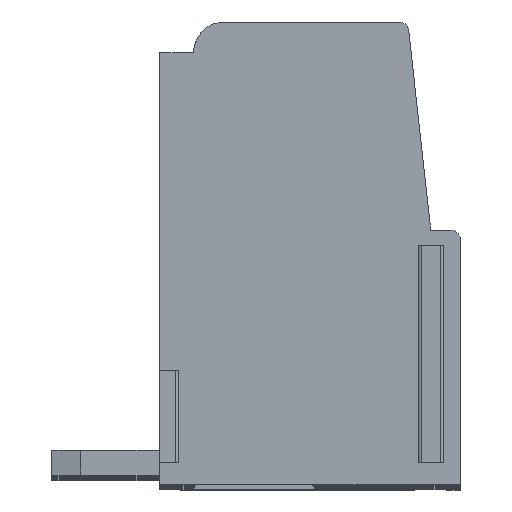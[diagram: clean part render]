
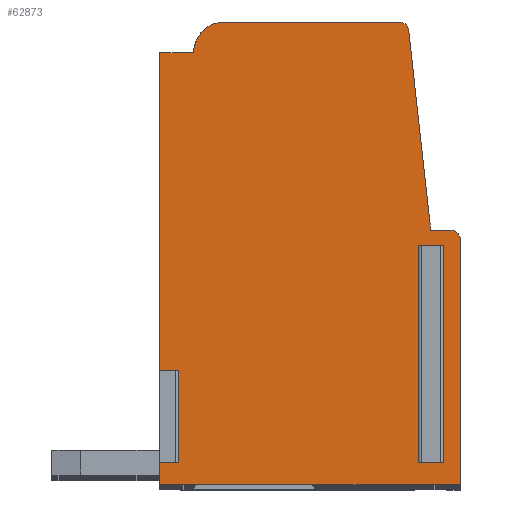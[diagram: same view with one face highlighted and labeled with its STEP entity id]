
A CAD part, top view. The second image highlights one B-rep face of the part: STEP entity #62873.
In plain terms, the highlighted planar face has unit normal (0, 0, 1).
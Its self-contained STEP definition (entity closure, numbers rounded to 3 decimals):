
#16546 = CARTESIAN_POINT ( 'NONE',  ( -8.465, -10.694, 0. ) ) ;
#16573 = CARTESIAN_POINT ( 'NONE',  ( -8.465, 2.606, 0. ) ) ;
#16574 = CARTESIAN_POINT ( 'NONE',  ( -7.365, 2.606, 0. ) ) ;
#16575 = DIRECTION ( 'NONE',  ( -1., 0., 0. ) ) ;
#16576 = VECTOR ( 'NONE', #16575, 1000. ) ;
#16577 = CARTESIAN_POINT ( 'NONE',  ( -3.59, 2.606, 0. ) ) ;
#16578 = LINE ( 'NONE', #16577, #16576 ) ;
#16589 = CARTESIAN_POINT ( 'NONE',  ( -8.465, -7.694, 0. ) ) ;
#16590 = DIRECTION ( 'NONE',  ( 1., 0., 0. ) ) ;
#16591 = VECTOR ( 'NONE', #16590, 1000. ) ;
#16592 = CARTESIAN_POINT ( 'NONE',  ( -3.59, -7.694, 0. ) ) ;
#16593 = LINE ( 'NONE', #16592, #16591 ) ;
#16594 = CARTESIAN_POINT ( 'NONE',  ( -8.057, -7.694, 0. ) ) ;
#16599 = DIRECTION ( 'NONE',  ( -1., 0., 0. ) ) ;
#16600 = VECTOR ( 'NONE', #16599, 1000. ) ;
#16601 = CARTESIAN_POINT ( 'NONE',  ( -3.59, -10.694, 0. ) ) ;
#16602 = LINE ( 'NONE', #16601, #16600 ) ;
#16608 = CARTESIAN_POINT ( 'NONE',  ( -3.59, -3.144, 0. ) ) ;
#16609 = LINE ( 'NONE', #16608, #16662 ) ;
#16638 = CARTESIAN_POINT ( 'NONE',  ( 0.985, -3.144, 0. ) ) ;
#16639 = CARTESIAN_POINT ( 'NONE',  ( 1.285, -3.444, 0. ) ) ;
#16640 = DIRECTION ( 'NONE',  ( 1., 0., 0. ) ) ;
#16641 = DIRECTION ( 'NONE',  ( 0., 0., 1. ) ) ;
#16642 = AXIS2_PLACEMENT_3D ( 'NONE', #16648, #16641, #16640 ) ;
#16643 = CIRCLE ( 'NONE', #16642, 0.3 ) ;
#16648 = CARTESIAN_POINT ( 'NONE',  ( 0.985, -3.444, 0. ) ) ;
#16655 = CARTESIAN_POINT ( 'NONE',  ( -8.465, -11.394, 0. ) ) ;
#16656 = DIRECTION ( 'NONE',  ( 1., 0., 0. ) ) ;
#16657 = VECTOR ( 'NONE', #16656, 1000. ) ;
#16658 = CARTESIAN_POINT ( 'NONE',  ( -3.59, -11.394, 0. ) ) ;
#16659 = LINE ( 'NONE', #16658, #16657 ) ;
#16660 = CARTESIAN_POINT ( 'NONE',  ( 0.33, -3.144, 0. ) ) ;
#16661 = DIRECTION ( 'NONE',  ( -1., 0., 0. ) ) ;
#16662 = VECTOR ( 'NONE', #16661, 1000. ) ;
#16663 = DIRECTION ( 'NONE',  ( -1., 0., 0. ) ) ;
#16664 = VECTOR ( 'NONE', #16663, 1000. ) ;
#16665 = CARTESIAN_POINT ( 'NONE',  ( -3.59, -10.694, 0. ) ) ;
#16666 = LINE ( 'NONE', #16665, #16664 ) ;
#16673 = CARTESIAN_POINT ( 'NONE',  ( 0.535, -3.644, 0. ) ) ;
#16684 = DIRECTION ( 'NONE',  ( 0., -1., 0. ) ) ;
#16685 = VECTOR ( 'NONE', #16684, 1000. ) ;
#16686 = CARTESIAN_POINT ( 'NONE',  ( -8.057, -3.894, 0. ) ) ;
#16687 = LINE ( 'NONE', #16686, #16685 ) ;
#16688 = CARTESIAN_POINT ( 'NONE',  ( -8.057, -10.694, 0. ) ) ;
#16693 = CARTESIAN_POINT ( 'NONE',  ( 1.285, -11.394, 0. ) ) ;
#16696 = AXIS2_PLACEMENT_3D ( 'NONE', #16762, #16761, #16760 ) ;
#16701 = CIRCLE ( 'NONE', #16696, 1. ) ;
#16726 = CARTESIAN_POINT ( 'NONE',  ( 0.535, -10.694, 0. ) ) ;
#16744 = CARTESIAN_POINT ( 'NONE',  ( 0.135, -10.694, 0. ) ) ;
#16759 = CARTESIAN_POINT ( 'NONE',  ( -6.365, 3.606, 0. ) ) ;
#16760 = DIRECTION ( 'NONE',  ( 1., 0., 0. ) ) ;
#16761 = DIRECTION ( 'NONE',  ( 0., 0., 1. ) ) ;
#16762 = CARTESIAN_POINT ( 'NONE',  ( -6.365, 2.606, 0. ) ) ;
#16776 = DIRECTION ( 'NONE',  ( 1., 0., 0. ) ) ;
#16777 = VECTOR ( 'NONE', #16776, 1000. ) ;
#16778 = CARTESIAN_POINT ( 'NONE',  ( -3.59, -3.644, 0. ) ) ;
#16779 = LINE ( 'NONE', #16778, #16777 ) ;
#16788 = CARTESIAN_POINT ( 'NONE',  ( 0.135, -3.644, 0. ) ) ;
#16810 = DIRECTION ( 'NONE',  ( 0., -1., 0. ) ) ;
#16811 = VECTOR ( 'NONE', #16810, 1000. ) ;
#16812 = CARTESIAN_POINT ( 'NONE',  ( 0.535, -3.894, 0. ) ) ;
#16813 = LINE ( 'NONE', #16812, #16811 ) ;
#16847 = DIRECTION ( 'NONE',  ( 0., 1., 0. ) ) ;
#16848 = VECTOR ( 'NONE', #16847, 1000. ) ;
#16849 = CARTESIAN_POINT ( 'NONE',  ( 0.135, -3.894, 0. ) ) ;
#16850 = LINE ( 'NONE', #16849, #16848 ) ;
#17256 = DIRECTION ( 'NONE',  ( 0., 1., 0. ) ) ;
#17257 = VECTOR ( 'NONE', #17256, 1000. ) ;
#17258 = CARTESIAN_POINT ( 'NONE',  ( 1.285, -11.394, 0. ) ) ;
#17259 = LINE ( 'NONE', #17258, #17257 ) ;
#17485 = CARTESIAN_POINT ( 'NONE',  ( -0.386, 3.339, 0. ) ) ;
#17486 = DIRECTION ( 'NONE',  ( -0.11, 0.994, 0. ) ) ;
#17487 = VECTOR ( 'NONE', #17486, 1000. ) ;
#17488 = CARTESIAN_POINT ( 'NONE',  ( 0.33, -3.144, 0. ) ) ;
#17489 = LINE ( 'NONE', #17488, #17487 ) ;
#18106 = DIRECTION ( 'NONE',  ( 0., -1., 0. ) ) ;
#18107 = VECTOR ( 'NONE', #18106, 1000. ) ;
#18108 = CARTESIAN_POINT ( 'NONE',  ( -8.465, -11.394, 0. ) ) ;
#18109 = LINE ( 'NONE', #18108, #18107 ) ;
#18169 = DIRECTION ( 'NONE',  ( 0., -1., 0. ) ) ;
#18170 = VECTOR ( 'NONE', #18169, 1000. ) ;
#18171 = CARTESIAN_POINT ( 'NONE',  ( -8.465, -11.394, 0. ) ) ;
#18172 = LINE ( 'NONE', #18171, #18170 ) ;
#19397 = FACE_BOUND ( 'NONE', #62874, .T. ) ;
#19398 = PLANE ( 'NONE',  #19460 ) ;
#19399 = FACE_OUTER_BOUND ( 'NONE', #62879, .T. ) ;
#19453 = CARTESIAN_POINT ( 'NONE',  ( -0.684, 3.606, 0. ) ) ;
#19454 = DIRECTION ( 'NONE',  ( 1., 0., 0. ) ) ;
#19455 = VECTOR ( 'NONE', #19454, 1000. ) ;
#19456 = CARTESIAN_POINT ( 'NONE',  ( -6.365, 3.606, 0. ) ) ;
#19457 = DIRECTION ( 'NONE',  ( 1., 0., 0. ) ) ;
#19458 = DIRECTION ( 'NONE',  ( 0., 0., 1. ) ) ;
#19459 = CARTESIAN_POINT ( 'NONE',  ( -8.465, -11.394, 0. ) ) ;
#19460 = AXIS2_PLACEMENT_3D ( 'NONE', #19459, #19458, #19457 ) ;
#19461 = LINE ( 'NONE', #19456, #19455 ) ;
#19464 = DIRECTION ( 'NONE',  ( -1., 0., 0. ) ) ;
#19465 = DIRECTION ( 'NONE',  ( 0., 0., 1. ) ) ;
#19466 = CARTESIAN_POINT ( 'NONE',  ( -0.684, 3.306, 0. ) ) ;
#19467 = AXIS2_PLACEMENT_3D ( 'NONE', #19466, #19465, #19464 ) ;
#19468 = CIRCLE ( 'NONE', #19467, 0.3 ) ;
#60731 = VERTEX_POINT ( 'NONE', #16546 ) ;
#60734 = EDGE_CURVE ( 'NONE', #60804, #60731, #16602, .T. ) ;
#60738 = VERTEX_POINT ( 'NONE', #16594 ) ;
#60740 = EDGE_CURVE ( 'NONE', #60741, #60738, #16593, .T. ) ;
#60741 = VERTEX_POINT ( 'NONE', #16589 ) ;
#60750 = EDGE_CURVE ( 'NONE', #60751, #60752, #16578, .T. ) ;
#60751 = VERTEX_POINT ( 'NONE', #16574 ) ;
#60752 = VERTEX_POINT ( 'NONE', #16573 ) ;
#60772 = EDGE_CURVE ( 'NONE', #60789, #60773, #16609, .T. ) ;
#60773 = VERTEX_POINT ( 'NONE', #16660 ) ;
#60778 = EDGE_CURVE ( 'NONE', #60779, #60802, #16659, .T. ) ;
#60779 = VERTEX_POINT ( 'NONE', #16655 ) ;
#60787 = EDGE_CURVE ( 'NONE', #60788, #60789, #16643, .T. ) ;
#60788 = VERTEX_POINT ( 'NONE', #16639 ) ;
#60789 = VERTEX_POINT ( 'NONE', #16638 ) ;
#60802 = VERTEX_POINT ( 'NONE', #16693 ) ;
#60804 = VERTEX_POINT ( 'NONE', #16688 ) ;
#60806 = EDGE_CURVE ( 'NONE', #60738, #60804, #16687, .T. ) ;
#60810 = VERTEX_POINT ( 'NONE', #16673 ) ;
#60815 = EDGE_CURVE ( 'NONE', #60816, #60845, #16666, .T. ) ;
#60816 = VERTEX_POINT ( 'NONE', #16726 ) ;
#60835 = EDGE_CURVE ( 'NONE', #60836, #60751, #16701, .T. ) ;
#60836 = VERTEX_POINT ( 'NONE', #16759 ) ;
#60845 = VERTEX_POINT ( 'NONE', #16744 ) ;
#60852 = EDGE_CURVE ( 'NONE', #60877, #60810, #16779, .T. ) ;
#60867 = EDGE_CURVE ( 'NONE', #60810, #60816, #16813, .T. ) ;
#60877 = VERTEX_POINT ( 'NONE', #16788 ) ;
#60881 = EDGE_CURVE ( 'NONE', #60845, #60877, #16850, .T. ) ;
#61222 = EDGE_CURVE ( 'NONE', #60802, #60788, #17259, .T. ) ;
#61414 = EDGE_CURVE ( 'NONE', #60773, #61415, #17489, .T. ) ;
#61415 = VERTEX_POINT ( 'NONE', #17485 ) ;
#61969 = EDGE_CURVE ( 'NONE', #60731, #60779, #18109, .T. ) ;
#62013 = EDGE_CURVE ( 'NONE', #60752, #60741, #18172, .T. ) ;
#62873 = ADVANCED_FACE ( 'NONE', ( #19397, #19399 ), #19398, .T. ) ;
#62874 = EDGE_LOOP ( 'NONE', ( #62875, #62876, #62877, #62878 ) ) ;
#62875 = ORIENTED_EDGE ( 'NONE', *, *, #60852, .T. ) ;
#62876 = ORIENTED_EDGE ( 'NONE', *, *, #60867, .T. ) ;
#62877 = ORIENTED_EDGE ( 'NONE', *, *, #60815, .T. ) ;
#62878 = ORIENTED_EDGE ( 'NONE', *, *, #60881, .T. ) ;
#62879 = EDGE_LOOP ( 'NONE', ( #62880, #62945, #62946, #62947, #62948, #62949, #62950, #62951, #62952, #62953, #62932, #62933, #62934, #62935 ) ) ;
#62880 = ORIENTED_EDGE ( 'NONE', *, *, #62881, .F. ) ;
#62881 = EDGE_CURVE ( 'NONE', #60836, #62882, #19461, .T. ) ;
#62882 = VERTEX_POINT ( 'NONE', #19453 ) ;
#62932 = ORIENTED_EDGE ( 'NONE', *, *, #60787, .T. ) ;
#62933 = ORIENTED_EDGE ( 'NONE', *, *, #60772, .T. ) ;
#62934 = ORIENTED_EDGE ( 'NONE', *, *, #61414, .T. ) ;
#62935 = ORIENTED_EDGE ( 'NONE', *, *, #62936, .T. ) ;
#62936 = EDGE_CURVE ( 'NONE', #61415, #62882, #19468, .T. ) ;
#62945 = ORIENTED_EDGE ( 'NONE', *, *, #60835, .T. ) ;
#62946 = ORIENTED_EDGE ( 'NONE', *, *, #60750, .T. ) ;
#62947 = ORIENTED_EDGE ( 'NONE', *, *, #62013, .T. ) ;
#62948 = ORIENTED_EDGE ( 'NONE', *, *, #60740, .T. ) ;
#62949 = ORIENTED_EDGE ( 'NONE', *, *, #60806, .T. ) ;
#62950 = ORIENTED_EDGE ( 'NONE', *, *, #60734, .T. ) ;
#62951 = ORIENTED_EDGE ( 'NONE', *, *, #61969, .T. ) ;
#62952 = ORIENTED_EDGE ( 'NONE', *, *, #60778, .T. ) ;
#62953 = ORIENTED_EDGE ( 'NONE', *, *, #61222, .T. ) ;
